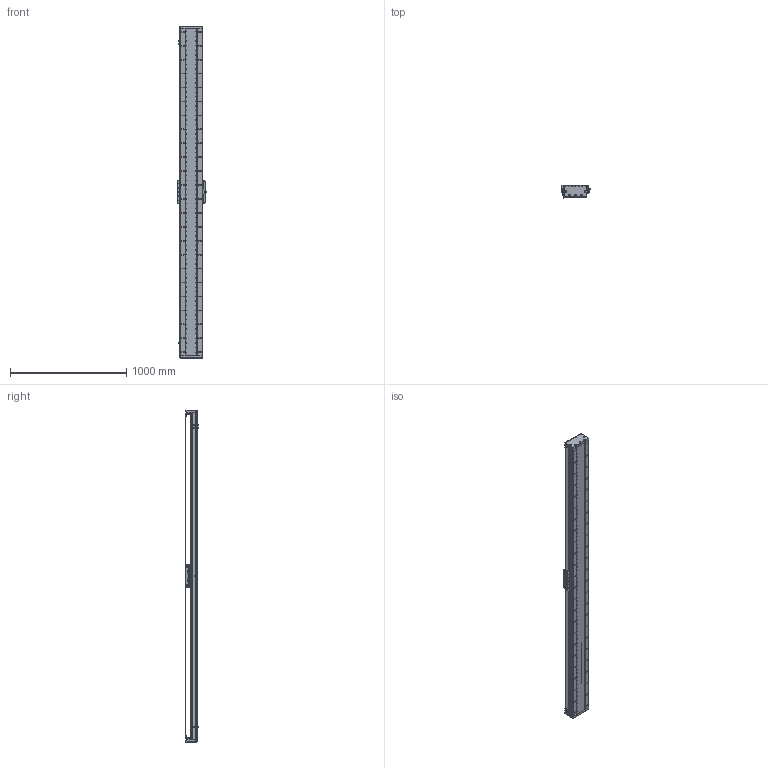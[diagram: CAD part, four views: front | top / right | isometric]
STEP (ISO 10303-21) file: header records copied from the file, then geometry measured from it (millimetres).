
FILE_DESCRIPTION (( 'STEP AP203' ), '1' );
FILE_NAME ('DA-C195-C2-T2580-C010-0.2 眻盄萇儂.STEP', '2025-08-15T01:14:05', ( '' ), ( '' ), 'SwSTEP 2.0', 'SolidWorks 2019', '' );
FILE_SCHEMA (( 'CONFIG_CONTROL_DESIGN' ));
Length unit declared in the file: millimetre
Products named in the file (15): LMT黍杅芛; DA-C195-GD-DB-H-00 傷啣; DA165-GYP-00 光电感应片(默认); DA195詩湍嶺輸; DA195詩湍裔啣; DA195詩湍菜輸; DA-C195-C2-T2580-C010-0.2 眻盄萇儂; IU-CU195-L 菁釱絳寢; DA195詩湍郪璃; MS200 棠掑喜S315-T1740; 葩璃 DA95-GT-T-00; IU-CU195-L-00 菁釱(L2820); PM-T45ㄗ侂狟ㄘ; DA95-HXJ-00 遣喳砎蝶; CU195-C2賑輸-俋楷
Assembly tree (29 placements, depth 3):
  DA-C195-C2-T2580-C010-0.2 眻盄萇儂
    DA195詩湍郪璃
      DA195詩湍菜輸  x2
      DA195詩湍裔啣
      DA195詩湍嶺輸  x2
      DA95-HXJ-00 遣喳砎蝶  x8
      DA-C195-GD-DB-H-00 傷啣  x2
    IU-CU195-L 菁釱絳寢
      IU-CU195-L-00 菁釱(L2820)
      葩璃 DA95-GT-T-00  x4
    LMT黍杅芛
    MS200 棠掑喜S315-T1740
    PM-T45ㄗ侂狟ㄘ  x3
    DA165-GYP-00 光电感应片(默认)
    CU195-C2賑輸-俋楷
Bounding box: 248 x 115.45 x 2860 mm (x, y, z)
Volume: 16254312.2 mm3; surface area: 4824689.5 mm2
Topology: 66 solids, 130 shells, 4494 faces, 12667 edges, 7991 vertices
Faces by surface type: cylinder 2471, plane 1405, cone 530, torus 52, sphere 36
Entity records: 146121 total; most frequent: CARTESIAN_POINT 40378, ORIENTED_EDGE 22218, DIRECTION 21216, EDGE_CURVE 11109, AXIS2_PLACEMENT_3D 7977, VERTEX_POINT 7193, LINE 5262, VECTOR 5262
